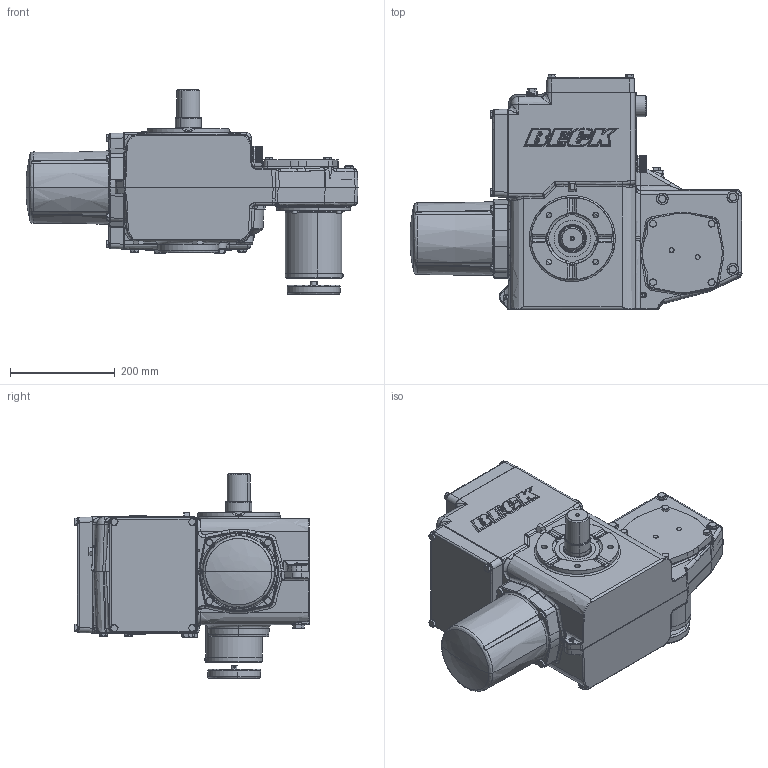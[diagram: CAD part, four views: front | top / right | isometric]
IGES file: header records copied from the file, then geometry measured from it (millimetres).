
Start section: SolidWorks IGES file using analytic representation for surfaces
Global section: file name: N:\Engineering\Product Support\Outline Dimension Models\11-200 & 260_&_-300 & 360\18-0360-01.IGS; native system: SolidWorks 2011; preprocessor: SolidWorks 2011; author: Jmack; date: 130110.083918; units: inch
Bounding box: 635.39 x 449.38 x 391.85 mm (x, y, z)
Surface area: 1031776.4 mm2 (no closed solid volume)
Topology: 0 solids, 0 shells, 1830 faces, 28920 edges, 28858 vertices
Faces by surface type: bspline 1038, revolution 792
